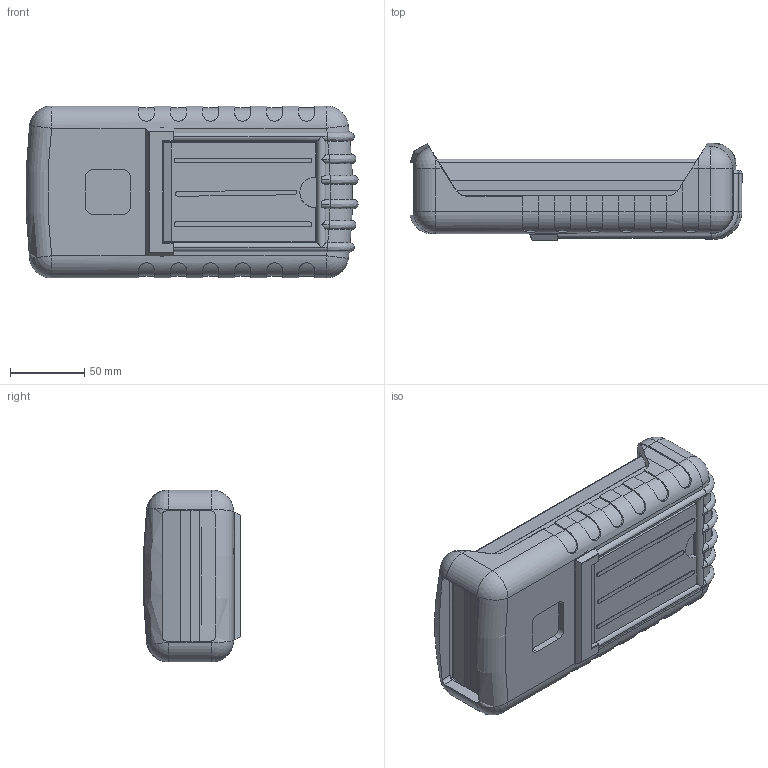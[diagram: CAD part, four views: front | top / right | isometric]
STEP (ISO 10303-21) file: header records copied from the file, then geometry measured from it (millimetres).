
FILE_DESCRIPTION (( 'STEP AP214' ), '1' );
FILE_NAME ('100-42-4C-E-F.STEP', '2020-11-20T02:56:03', ( 'Rudy' ), ( '' ), 'SwSTEP 2.0', 'SolidWorks 2016', '' );
FILE_SCHEMA (( 'AUTOMOTIVE_DESIGN' ));
Length unit declared in the file: inch
Products named in the file (8): 100 RBE; 100 RBE Stand; 100-06 EXPANDER; 4Cdoor; 100-04-flush Top; 100-02 BOT-4C; 100-42-4C-E-F
Assembly tree (7 placements, depth 3):
  100-42-4C-E-F
    100-02 BOT-4C
    100-04-flush Top
    4Cdoor
    100-06 EXPANDER
    100 RBE
      100 RBE
      100 RBE Stand
Bounding box: 223.76 x 65.38 x 115.87 mm (x, y, z)
Volume: 433430.7 mm3; surface area: 288646 mm2
Topology: 6 solids, 6 shells, 1333 faces, 3583 edges, 2260 vertices
Faces by surface type: plane 731, cylinder 447, bspline 63, cone 42, torus 38, sphere 12
Entity records: 44754 total; most frequent: CARTESIAN_POINT 12171, ORIENTED_EDGE 7086, DIRECTION 6315, EDGE_CURVE 3543, VECTOR 2323, LINE 2323, VERTEX_POINT 2252, AXIS2_PLACEMENT_3D 1996
